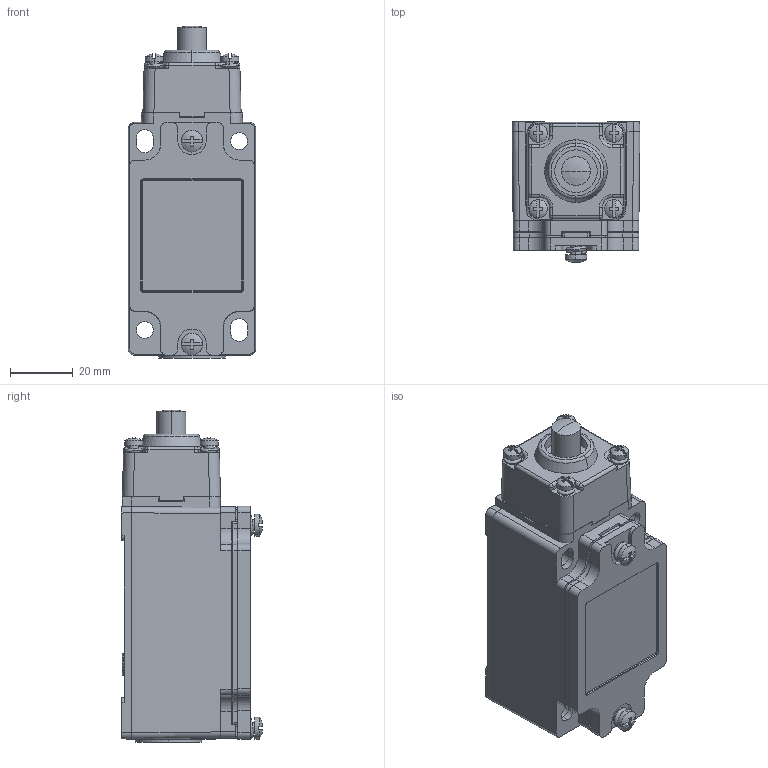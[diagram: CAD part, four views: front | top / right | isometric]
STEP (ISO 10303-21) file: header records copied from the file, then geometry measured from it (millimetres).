
FILE_DESCRIPTION(/* description */ (''),/* implementation_level */ '2;1');
FILE_NAME(/* name */ 'C4B-4170N.stp',/* time_stamp */ '2024-01-04T16:14:56+08:00',/* author */ (''),/* organization */ (''),/* preprocessor_version */ 'ST-DEVELOPER v16.7',/* originating_system */ 'SIEMENS PLM Software NX 12.0',/* authorisation */ '');
FILE_SCHEMA (('AUTOMOTIVE_DESIGN { 1 0 10303 214 3 1 1 1 }'));
Products named in the file (1): Admi07543A17mrnw
Bounding box: 40.6 x 44.88 x 105.5 mm (x, y, z)
Volume: 72891.9 mm3; surface area: 45951.6 mm2
Topology: 18 solids, 18 shells, 1196 faces, 3015 edges, 1899 vertices
Faces by surface type: cylinder 484, plane 408, bspline 109, torus 90, cone 83, sphere 22
Entity records: 57474 total; most frequent: CARTESIAN_POINT 29379, ORIENTED_EDGE 6026, DIRECTION 5567, EDGE_CURVE 3013, AXIS2_PLACEMENT_3D 2058, VERTEX_POINT 1899, LINE 1451, VECTOR 1451
